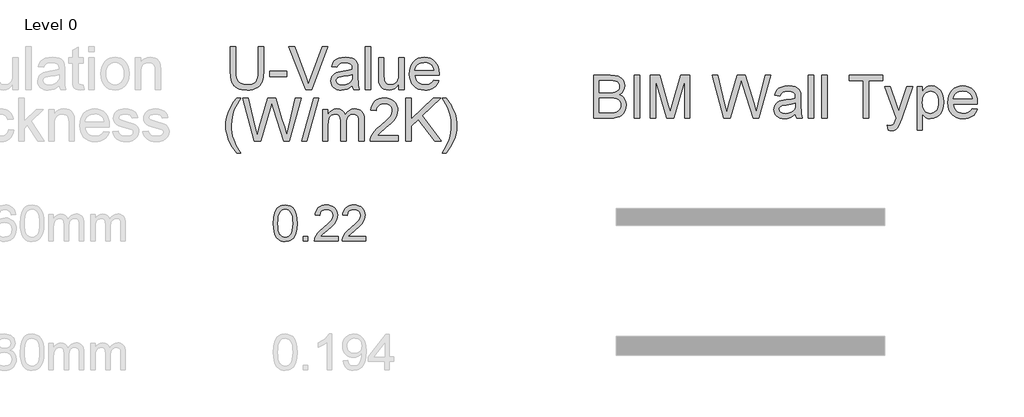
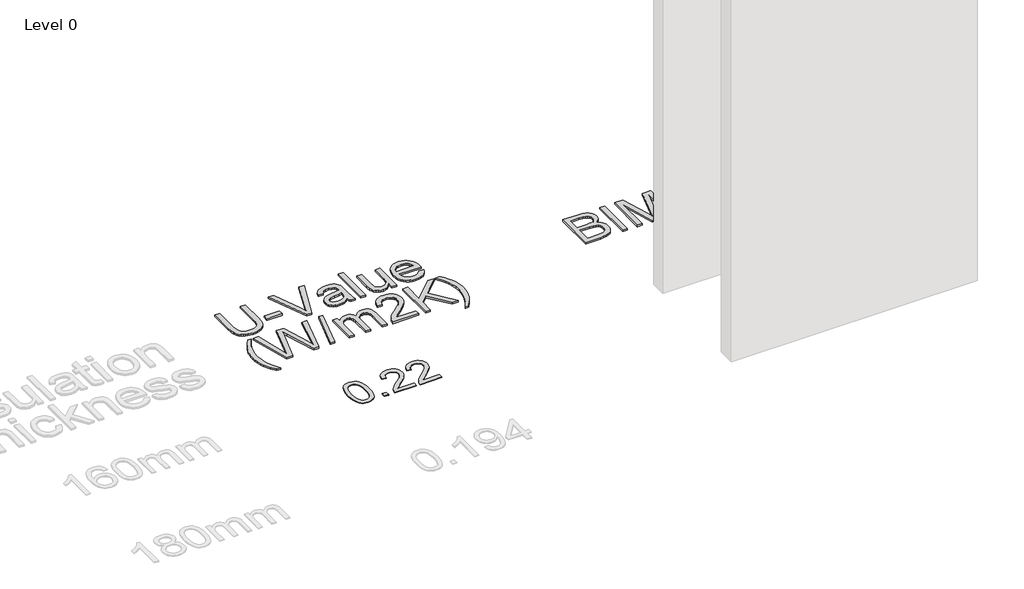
# One storey, part 11 of 11: 3 proxies.
"""IFC4 building model written with IfcOpenShell, lengths in millimetres."""

from ifc_helpers import new_model, si_unit, origin, origin_with_axes, place, context, project, spatial, polyline, outline, extrude, element, save

model = new_model("IFC4")

# Units and contexts
model_context = context("Model", 3, world=origin())
ifc_project = project(units=[si_unit("LENGTHUNIT", "METRE", prefix="MILLI")], contexts=[model_context])

# Site, building, storey
site = spatial("IfcSite", under=ifc_project)
building = spatial("IfcBuilding", under=site)
storey = spatial("IfcBuildingStorey", under=building, Name="Level 0", Elevation=0.0)

# Proxies
placement = place(None, origin())
element("IfcBuildingElementProxy", 1, Name="600mm Arial-400", ObjectType="600mm Arial-400", at=placement, inside=storey, context=model_context, shape_type="SweptSolid", body=[
    extrude(outline(polyline([(37665.4277656, 4459.6099493), (37669.1188483, 4523.9279848), (37680.1920964, 4575.2229977), (37698.5371452, 4614.2798028), (37710.3952082, 4629.5131831), (37724.0436302, 4641.8832152), (37739.5283965, 4651.4542785), (37756.8954924, 4658.2907522), (37797.2766727, 4663.7599312), (37828.2278112, 4660.5225696), (37855.9415882, 4650.810485), (37879.1181539, 4635.0038219), (37896.4576586, 4613.4827252), (37909.5542576, 4586.4311358), (37920.0021063, 4554.0329948), (37926.8447114, 4512.891525), (37929.1255798, 4459.6099493), (37925.4712853, 4395.6597958), (37914.5084018, 4344.4874103), (37896.2737176, 4305.393817), (37884.4432458, 4290.1144514), (37870.8040208, 4277.68004), (37855.3008604, 4268.0445974), (37837.8785822, 4261.1621384), (37797.2766727, 4255.6561712), (37769.6119467, 4258.0474042), (37745.0864803, 4265.2211031), (37723.7002737, 4277.1772679), (37705.4533267, 4293.9158987), (37687.9421437, 4324.1741928), (37675.4341559, 4361.8759659), (37667.9293632, 4407.0212181), (37665.4277656, 4459.6099493)]), holes=[polyline([(37715.6559207, 4459.7080512), (37717.1274487, 4416.0435241), (37721.5420326, 4380.6992614), (37728.8996725, 4353.6752631), (37739.2003684, 4334.9715294), (37751.6593053, 4322.245878), (37765.4916683, 4313.1561271), (37780.6974575, 4307.7022765), (37797.2766727, 4305.8843263), (37813.8558879, 4307.7084078), (37829.0616771, 4313.1806525), (37842.8940401, 4322.3010603), (37855.352977, 4335.0696312), (37865.6536729, 4353.8040218), (37873.0113128, 4380.8218887), (37877.4258967, 4416.1232318), (37878.8974247, 4459.7080512), (37877.4749476, 4502.2168157), (37873.2075165, 4536.9387447), (37866.0951313, 4563.8738381), (37856.1377919, 4583.022096), (37843.8873215, 4596.370081), (37829.8955429, 4605.9043561), (37814.1624563, 4611.6249211), (37796.6880615, 4613.5317761), (37780.1946854, 4611.8517817), (37765.2464137, 4606.8117983), (37751.8432463, 4598.4118261), (37739.9851833, 4586.651865), (37729.3411309, 4565.8052186), (37721.7382364, 4537.6990342), (37717.1764996, 4502.3333117), (37715.6559207, 4459.7080512)])]), origin_with_axes(), (0.0, 0.0, 1.0), 8.0),
    extrude(outline(polyline([(37998.189293, 4261.9346906), (37998.189293, 4312.1628457), (38048.4174481, 4312.1628457), (38048.4174481, 4261.9346906), (37998.189293, 4261.9346906)])), origin_with_axes(), (0.0, 0.0, 1.0), 8.0),
    extrude(outline(polyline([(38387.4574948, 4312.1628457), (38387.4574948, 4261.9346906), (38123.7596807, 4261.9346906), (38124.8633267, 4279.6175518), (38129.1552833, 4296.5646491), (38141.5529065, 4323.6285012), (38159.7140143, 4349.8830129), (38185.9685261, 4377.3637979), (38222.646361, 4408.10647), (38276.8353789, 4456.2499604), (38309.3193591, 4491.7873612), (38325.542955, 4520.6293096), (38330.9508204, 4548.6864431), (38325.8372606, 4573.8373088), (38310.4965814, 4594.7452689), (38286.9153455, 4608.8351493), (38257.0801157, 4613.5317761), (38225.7488325, 4608.9455139), (38201.4073071, 4595.1867273), (38185.6987459, 4573.3345368), (38180.2663551, 4544.4680629), (38130.0382001, 4550.7465823), (38134.3577478, 4576.6761316), (38142.2150941, 4599.3315311), (38153.6102389, 4618.7127809), (38168.5431822, 4634.8198809), (38186.6705675, 4647.4811529), (38207.6490383, 4656.5249186), (38231.4785946, 4661.951178), (38258.1592363, 4663.7599312), (38285.0790013, 4661.748843), (38309.0373162, 4655.7155782), (38330.0341811, 4645.660137), (38348.0695959, 4631.5825193), (38362.5549494, 4614.5250575), (38372.9016306, 4595.5300838), (38379.1096392, 4574.5975983), (38381.1789754, 4551.7276009), (38378.947158, 4527.7049066), (38372.2517057, 4504.0991453), (38360.3691173, 4480.0887137), (38342.5758914, 4454.8520089), (38314.2121896, 4424.7224735), (38270.6181732, 4386.0335503), (38212.8361745, 4337.7183816), (38190.1746435, 4312.1628457), (38387.4574948, 4312.1628457)])), origin_with_axes(), (0.0, 0.0, 1.0), 8.0),
    extrude(outline(polyline([(38695.1049447, 4312.1628457), (38695.1049447, 4261.9346906), (38431.4071305, 4261.9346906), (38432.5107765, 4279.6175518), (38436.8027331, 4296.5646491), (38449.2003564, 4323.6285012), (38467.3614642, 4349.8830129), (38493.6159759, 4377.3637979), (38530.2938108, 4408.10647), (38584.4828287, 4456.2499604), (38616.9668089, 4491.7873612), (38633.1904049, 4520.6293096), (38638.5982702, 4548.6864431), (38633.4847105, 4573.8373088), (38618.1440313, 4594.7452689), (38594.5627954, 4608.8351493), (38564.7275656, 4613.5317761), (38533.3962823, 4608.9455139), (38509.054757, 4595.1867273), (38493.3461958, 4573.3345368), (38487.913805, 4544.4680629), (38437.6856499, 4550.7465823), (38442.0051977, 4576.6761316), (38449.8625439, 4599.3315311), (38461.2576887, 4618.7127809), (38476.1906321, 4634.8198809), (38494.3180174, 4647.4811529), (38515.2964882, 4656.5249186), (38539.1260444, 4661.951178), (38565.8066861, 4663.7599312), (38592.7264511, 4661.748843), (38616.684766, 4655.7155782), (38637.6816309, 4645.660137), (38655.7170457, 4631.5825193), (38670.2023993, 4614.5250575), (38680.5490804, 4595.5300838), (38686.7570891, 4574.5975983), (38688.8264253, 4551.7276009), (38686.5946078, 4527.7049066), (38679.8991555, 4504.0991453), (38668.0165671, 4480.0887137), (38650.2233413, 4454.8520089), (38621.8596394, 4424.7224735), (38578.265623, 4386.0335503), (38520.4836243, 4337.7183816), (38497.8220934, 4312.1628457), (38695.1049447, 4312.1628457)])), origin_with_axes(), (0.0, 0.0, 1.0), 8.0),
])
element("IfcBuildingElementProxy", 2, Name="Arial-500 Blanco", ObjectType="Arial-500 Blanco", at=placement, inside=storey, context=model_context, shape_type="SweptSolid", body=[
    extrude(outline(polyline([(41242.0487844, 5635.3857513), (41242.0487844, 6115.0189703), (41425.0728863, 6115.0189703), (41475.4103692, 6111.4913944), (41514.71137, 6100.9086669), (41544.8348186, 6083.0073172), (41567.6396451, 6057.523875), (41581.9987817, 6027.5467988), (41586.7851606, 5996.1645471), (41582.7599184, 5967.2852643), (41570.6841919, 5940.1331762), (41550.4701576, 5916.3769288), (41522.0299921, 5897.6851679), (41556.0030359, 5879.9448279), (41569.6632441, 5867.605631), (41581.1059098, 5852.9537496), (41596.6067514, 5818.4976766), (41601.7736987, 5778.362353), (41598.2461228, 5744.9162499), (41587.6633952, 5713.8999294), (41571.8698087, 5687.5236153), (41552.709656, 5667.9975315), (41529.2461535, 5653.8579535), (41500.5425175, 5643.641157), (41465.6619645, 5637.4496027), (41423.6677108, 5635.3857513), (41242.0487844, 5635.3857513)]), holes=[polyline([(41302.0029368, 5920.1679751), (41411.4895236, 5920.1679751), (41449.7805546, 5921.4560526), (41475.4250064, 5925.3202851), (41497.8053529, 5934.2050923), (41513.8916843, 5947.5103473), (41523.5961772, 5965.0311287), (41526.8310082, 5986.5625149), (41523.8157359, 6007.4644997), (41514.7699189, 6025.6732315), (41500.1034002, 6039.8859957), (41480.2260226, 6048.8000774), (41449.7220056, 6053.4986328), (41403.1755689, 6055.0648179), (41302.0029368, 6055.0648179), (41302.0029368, 5920.1679751)]), polyline([(41302.0029368, 5695.3399037), (41424.9557883, 5695.3399037), (41469.4530108, 5697.6818628), (41490.1061624, 5702.8780845), (41507.100003, 5710.7382846), (41520.9175615, 5721.9943254), (41532.0418671, 5737.3780691), (41539.3751265, 5756.2015652), (41541.8195463, 5777.7768632), (41538.9506464, 5802.8358253), (41530.3439468, 5824.3818488), (41515.311497, 5841.2293169), (41493.1653465, 5852.1926129), (41461.7977321, 5858.2085202), (41419.1008906, 5860.2138227), (41302.0029368, 5860.2138227), (41302.0029368, 5695.3399037)])]), origin_with_axes(), (0.0, 0.0, 1.0), 20.0),
    extrude(outline(polyline([(41691.7049272, 5635.3857513), (41691.7049272, 6115.0189703), (41751.6590796, 6115.0189703), (41751.6590796, 5635.3857513), (41691.7049272, 5635.3857513)])), origin_with_axes(), (0.0, 0.0, 1.0), 20.0),
    extrude(outline(polyline([(41871.5673844, 5635.3857513), (41871.5673844, 6115.0189703), (41974.3793878, 6115.0189703), (42072.7416691, 5776.9571775), (42092.6483212, 5706.3471113), (42114.0772468, 5782.8120752), (42210.5659608, 6115.0189703), (42313.7292581, 6115.0189703), (42313.7292581, 5635.3857513), (42253.7751057, 5635.3857513), (42253.7751057, 6055.0648179), (42133.2813112, 5635.3857513), (42052.1324292, 5635.3857513), (41931.5215367, 6055.0648179), (41931.5215367, 5635.3857513), (41871.5673844, 5635.3857513)])), origin_with_axes(), (0.0, 0.0, 1.0), 20.0),
    extrude(outline(polyline([(42691.8385511, 5635.3857513), (42561.0401367, 6115.0189703), (42622.8678563, 6115.0189703), (42698.7473304, 5799.7912785), (42722.1669212, 5702.4828789), (42747.2258833, 5788.5498749), (42842.3094218, 6115.0189703), (42931.4209647, 6115.0189703), (43000.5087575, 5878.3640056), (43030.1052653, 5790.5405402), (43051.9147592, 5702.4828789), (43074.6317623, 5796.9809276), (43151.0967262, 6115.0189703), (43213.0415438, 6115.0189703), (43082.3602272, 5635.3857513), (43018.1905485, 5635.3857513), (42903.0832599, 6005.4152855), (42887.0408402, 6057.0554831), (42869.0077553, 5994.8764696), (42764.2050866, 5635.3857513), (42691.8385511, 5635.3857513)])), origin_with_axes(), (0.0, 0.0, 1.0), 20.0),
    extrude(outline(polyline([(43490.3294985, 5680.3513656), (43461.6844115, 5655.7900698), (43432.1903644, 5639.7183756), (43401.1740439, 5630.8482056), (43367.9621367, 5627.8914823), (43341.2674625, 5629.6699074), (43317.8588497, 5635.005183), (43297.7362982, 5643.8973088), (43280.899808, 5656.346285), (43267.6055309, 5671.5617004), (43258.1096187, 5688.7531438), (43252.4120714, 5707.9206151), (43250.512889, 5729.0641144), (43253.3817889, 5753.9181551), (43261.9884885, 5776.4887857), (43275.264469, 5795.8099481), (43292.1412116, 5810.9155841), (43311.9746775, 5822.3326346), (43334.120828, 5830.5880404), (43385.9952216, 5839.6045828), (43447.2960005, 5849.0895171), (43489.9782046, 5860.2138227), (43490.3294985, 5873.5629894), (43486.2017956, 5900.3198719), (43473.818687, 5917.826016), (43446.1250209, 5930.8238889), (43407.5412451, 5935.1565132), (43371.8263692, 5932.2729761), (43346.884505, 5923.6223647), (43329.8760272, 5907.6238568), (43317.9613104, 5882.6966299), (43258.007158, 5890.1908989), (43268.4142387, 5922.978326), (43283.9443548, 5948.7398758), (43306.0465936, 5968.4416066), (43336.1700422, 5983.0495763), (43373.011986, 5992.0953932), (43415.2697101, 5995.1106656), (43455.8002393, 5992.4466871), (43487.9289904, 5984.4547518), (43512.1536296, 5972.4375742), (43528.9718233, 5957.6978693), (43540.1254034, 5939.4745002), (43547.356202, 5917.0063303), (43550.2836509, 5864.546447), (43550.2836509, 5789.9550504), (43553.3281977, 5685.7964204), (43565.272189, 5635.3857513), (43505.3180366, 5635.3857513), (43495.7160044, 5656.2291871), (43490.3294985, 5680.3513656)]), holes=[polyline([(43490.3294985, 5800.2596703), (43450.0478024, 5790.2770698), (43393.6065886, 5781.8752916), (43342.0249399, 5772.1561614), (43328.602587, 5765.5108525), (43318.6638981, 5756.3479376), (43312.5162556, 5745.3700045), (43310.4670414, 5733.2796407), (43314.9314009, 5715.4514773), (43328.3244793, 5700.8435075), (43350.3535319, 5691.0951028), (43380.7258137, 5687.8456346), (43412.927751, 5691.4317595), (43441.3825538, 5702.190134), (43464.4508507, 5718.0422695), (43480.4932704, 5736.9096773), (43487.6069711, 5756.3479376), (43489.9782046, 5783.280467), (43490.3294985, 5800.2596703)])]), origin_with_axes(), (0.0, 0.0, 1.0), 20.0),
    extrude(outline(polyline([(43632.7206104, 5635.3857513), (43632.7206104, 6115.0189703), (43692.6747628, 6115.0189703), (43692.6747628, 5635.3857513), (43632.7206104, 5635.3857513)])), origin_with_axes(), (0.0, 0.0, 1.0), 20.0),
    extrude(outline(polyline([(43782.6059913, 5635.3857513), (43782.6059913, 6115.0189703), (43842.5601437, 6115.0189703), (43842.5601437, 5635.3857513), (43782.6059913, 5635.3857513)])), origin_with_axes(), (0.0, 0.0, 1.0), 20.0),
    extrude(outline(polyline([(44247.2506722, 5635.3857513), (44247.2506722, 6055.0648179), (44089.8710222, 6055.0648179), (44089.8710222, 6115.0189703), (44464.5844746, 6115.0189703), (44464.5844746, 6055.0648179), (44307.2048246, 6055.0648179), (44307.2048246, 5635.3857513), (44247.2506722, 5635.3857513)])), origin_with_axes(), (0.0, 0.0, 1.0), 20.0),
    extrude(outline(polyline([(44524.538627, 5500.4889085), (44517.0443579, 5558.2181997), (44547.4898259, 5552.9487918), (44563.5029711, 5554.6028004), (44575.9446287, 5559.5648262), (44585.6344844, 5567.4835753), (44593.3922238, 5578.0077539), (44609.7859374, 5622.1536825), (44614.4698555, 5636.6738288), (44487.0672817, 5987.6163965), (44550.1830789, 5987.6163965), (44617.8656962, 5791.9457156), (44641.4023849, 5713.7242824), (44664.9390736, 5782.9291732), (44734.3781603, 5987.6163965), (44797.0255656, 5987.6163965), (44674.4240079, 5626.9546986), (44642.5733645, 5548.7332654), (44626.2674744, 5523.7621268), (44607.7952722, 5506.4609041), (44586.3663466, 5496.3612056), (44561.1902865, 5492.9946394), (44543.7719659, 5494.8682067), (44524.538627, 5500.4889085)])), origin_with_axes(), (0.0, 0.0, 1.0), 20.0),
    extrude(outline(polyline([(44846.792196, 5500.4889085), (44846.792196, 5987.6163965), (44906.7463484, 5987.6163965), (44906.7463484, 5928.8332237), (44926.3017067, 5957.8296045), (44948.199024, 5978.5413051), (44973.726378, 5990.9683254), (45004.171846, 5995.1106656), (45044.7170125, 5989.3143168), (45080.168418, 5971.9252707), (45109.0330637, 5943.9974087), (45129.8179505, 5906.5846124), (45142.376706, 5862.4094093), (45146.5629579, 5814.1943268), (45141.835128, 5762.9200603), (45127.6516383, 5717.0615741), (45104.4662435, 5678.9461901), (45089.6679895, 5663.6649072), (45072.732698, 5650.9012302), (45035.7736563, 5633.6439192), (44996.9117728, 5627.8914823), (44969.3498419, 5631.7410775), (44944.7446344, 5643.2898632), (44923.6816399, 5660.7228211), (44906.7463484, 5682.2249328), (44906.7463484, 5500.4889085), (44846.792196, 5500.4889085)]), holes=[polyline([(44906.7463484, 5808.690723), (44908.3674232, 5779.7968029), (44913.2306476, 5754.9427622), (44921.3360216, 5734.1286009), (44932.6835451, 5717.354319), (44946.3437533, 5704.4442696), (44961.3871811, 5695.2228057), (44977.8138284, 5689.6899274), (44995.6236953, 5687.8456346), (45013.689714, 5689.755795), (45030.4164249, 5695.4862761), (45045.8038279, 5705.037078), (45059.851923, 5718.4082006), (45071.5580591, 5735.7899281), (45079.9195849, 5757.3725447), (45084.9365003, 5783.1560504), (45086.6088055, 5813.1404453), (45084.9767528, 5841.7855322), (45080.0805946, 5866.5956612), (45071.9203309, 5887.5708322), (45060.4959618, 5904.7110452), (45046.8028198, 5918.0309374), (45031.8362376, 5927.5451462), (45015.5962151, 5933.2536714), (44998.0827524, 5935.1565132), (44980.6241793, 5933.1329142), (44964.197532, 5927.0621171), (44948.8028104, 5916.944122), (44934.4400145, 5902.7789289), (44922.3240355, 5884.756822), (44913.6697649, 5863.0680853), (44908.4772025, 5837.712719), (44906.7463484, 5808.690723)])]), origin_with_axes(), (0.0, 0.0, 1.0), 20.0),
    extrude(outline(polyline([(45460.6196701, 5740.305518), (45519.402843, 5732.8112489), (45510.3899598, 5709.2672416), (45498.2227506, 5688.5189479), (45482.9012152, 5670.5663678), (45464.4253536, 5655.4095014), (45442.9854501, 5643.370368), (45418.7717889, 5634.770987), (45391.7843698, 5629.6113585), (45362.023193, 5627.8914823), (45324.8226368, 5630.8591835), (45291.6765972, 5639.7622873), (45262.5850743, 5654.6007937), (45237.548068, 5675.3747025), (45217.4145386, 5701.5058428), (45203.0334461, 5732.4160433), (45194.4047906, 5768.1053041), (45191.5285722, 5808.5736251), (45194.4340651, 5850.4141877), (45203.1505441, 5887.2927245), (45217.678009, 5919.2092356), (45238.0164598, 5946.1637208), (45262.9875985, 5967.5780092), (45291.4131268, 5982.8739294), (45323.2930447, 5992.0514815), (45358.6273523, 5995.1106656), (45392.8236141, 5992.0588001), (45423.7484519, 5982.9032039), (45451.4018656, 5967.6438768), (45475.7838551, 5946.2808188), (45495.686848, 5919.3848825), (45509.9032714, 5887.5269204), (45518.4331255, 5850.7069326), (45521.2764102, 5808.9249189), (45520.9251164, 5792.7654013), (45251.4827245, 5792.7654013), (45254.9554107, 5768.8408256), (45261.8605307, 5747.8876105), (45272.1980844, 5729.9057559), (45285.9680719, 5714.895262), (45302.4093565, 5703.06105), (45320.7608015, 5694.6080415), (45341.0224068, 5689.5362363), (45363.1941725, 5687.8456346), (45395.1033649, 5690.9780049), (45421.9773453, 5700.3751157), (45443.8161137, 5716.6224568), (45460.6196701, 5740.305518)]), holes=[polyline([(45251.4827245, 5852.7195537), (45461.3222578, 5852.7195537), (45453.2132245, 5884.3945502), (45437.3171773, 5907.0530043), (45420.9673755, 5919.3482894), (45402.3634381, 5928.1306359), (45381.505365, 5933.4000439), (45358.3931564, 5935.1565132), (45317.9797251, 5929.5504486), (45300.3967354, 5922.542868), (45284.5628965, 5912.732255), (45271.275938, 5900.5723644), (45261.3335899, 5886.5169506), (45254.7358521, 5870.5660137), (45251.4827245, 5852.7195537)])]), origin_with_axes(), (0.0, 0.0, 1.0), 20.0),
])
element("IfcBuildingElementProxy", 3, Name="Arial-500 Blanco", ObjectType="Arial-500 Blanco", at=placement, inside=storey, context=model_context, shape_type="SweptSolid", body=[
    extrude(outline(polyline([(37497.8280608, 6435.0189703), (37557.7822132, 6435.0189703), (37557.7822132, 6158.3165053), (37553.7130593, 6093.5174251), (37541.5055976, 6043.6190595), (37531.7352371, 6023.3830694), (37518.7007711, 6005.1231072), (37502.4021996, 5988.839173), (37482.8395227, 5974.5312668), (37459.9907845, 5962.876361), (37433.834029, 5954.5514284), (37404.3692564, 5949.5564688), (37371.5964666, 5947.8914823), (37310.7201678, 5953.687831), (37284.8598166, 5960.9332669), (37262.0513307, 5971.0768771), (37242.291051, 5983.96863), (37225.5753181, 5999.4584937), (37211.904132, 6017.5464682), (37201.2774927, 6038.2325537), (37193.3111725, 6062.2266563), (37187.6209438, 6090.2386824), (37183.0687608, 6158.3165053), (37183.0687608, 6435.0189703), (37243.0229132, 6435.0189703), (37243.0229132, 6160.4242685), (37245.9796366, 6106.5445725), (37254.8498066, 6069.0293155), (37270.9215007, 6043.048207), (37295.4827966, 6023.7709564), (37327.5090869, 6011.8269651), (37365.9757648, 6007.8456346), (37399.0193436, 6009.814344), (37426.9545242, 6015.720472), (37449.7813066, 6025.5640188), (37467.4996908, 6039.3449842), (37480.7683527, 6058.7246956), (37490.2459683, 6085.3644801), (37495.9325377, 6119.2643377), (37497.8280608, 6160.4242685), (37497.8280608, 6435.0189703)])), origin_with_axes(), (0.0, 0.0, 1.0), 20.0),
    extrude(outline(polyline([(37625.2306346, 6097.7768632), (37625.2306346, 6157.7310156), (37812.5873608, 6157.7310156), (37812.5873608, 6097.7768632), (37625.2306346, 6097.7768632)])), origin_with_axes(), (0.0, 0.0, 1.0), 20.0),
    extrude(outline(polyline([(38029.1014775, 5955.3857513), (37838.3489106, 6435.0189703), (37902.5185894, 6435.0189703), (38030.272457, 6089.4629085), (38056.1511048, 6011.5927692), (38081.6784588, 6089.4629085), (38209.7836203, 6435.0189703), (38273.836201, 6435.0189703), (38090.9291971, 5955.3857513), (38029.1014775, 5955.3857513)])), origin_with_axes(), (0.0, 0.0, 1.0), 20.0),
    extrude(outline(polyline([(38547.0257274, 6000.3513656), (38518.3806404, 5975.7900698), (38488.8865933, 5959.7183756), (38457.8702728, 5950.8482056), (38424.6583656, 5947.8914823), (38397.9636914, 5949.6699074), (38374.5550786, 5955.005183), (38354.4325271, 5963.8973088), (38337.5960369, 5976.346285), (38324.3017598, 5991.5617004), (38314.8058476, 6008.7531438), (38309.1083003, 6027.9206151), (38307.2091179, 6049.0641144), (38310.0780178, 6073.9181551), (38318.6847174, 6096.4887857), (38331.9606979, 6115.8099481), (38348.8374405, 6130.9155841), (38368.6709064, 6142.3326346), (38390.8170569, 6150.5880404), (38442.6914505, 6159.6045828), (38503.9922294, 6169.0895171), (38546.6744335, 6180.2138227), (38547.0257274, 6193.5629894), (38542.8980245, 6220.3198719), (38530.5149159, 6237.826016), (38502.8212498, 6250.8238889), (38464.237474, 6255.1565132), (38428.5225981, 6252.2729761), (38403.5807339, 6243.6223647), (38386.5722561, 6227.6238568), (38374.6575393, 6202.6966299), (38314.7033869, 6210.1908989), (38325.1104676, 6242.978326), (38340.6405837, 6268.7398758), (38362.7428225, 6288.4416066), (38392.8662711, 6303.0495763), (38429.7082149, 6312.0953932), (38471.965939, 6315.1106656), (38512.4964683, 6312.4466871), (38544.6252193, 6304.4547518), (38568.8498585, 6292.4375742), (38585.6680522, 6277.6978693), (38596.8216323, 6259.4745002), (38604.0524309, 6237.0063303), (38606.9798798, 6184.546447), (38606.9798798, 6109.9550504), (38610.0244266, 6005.7964204), (38621.9684179, 5955.3857513), (38562.0142655, 5955.3857513), (38552.4122333, 5976.2291871), (38547.0257274, 6000.3513656)]), holes=[polyline([(38547.0257274, 6120.2596703), (38506.7440313, 6110.2770698), (38450.3028175, 6101.8752916), (38398.7211688, 6092.1561614), (38385.2988159, 6085.5108525), (38375.360127, 6076.3479376), (38369.2124845, 6065.3700045), (38367.1632703, 6053.2796407), (38371.6276298, 6035.4514773), (38385.0207082, 6020.8435075), (38407.0497608, 6011.0951028), (38437.4220426, 6007.8456346), (38469.6239799, 6011.4317595), (38498.0787827, 6022.190134), (38521.1470796, 6038.0422695), (38537.1894993, 6056.9096773), (38544.3032, 6076.3479376), (38546.6744335, 6103.280467), (38547.0257274, 6120.2596703)])]), origin_with_axes(), (0.0, 0.0, 1.0), 20.0),
    extrude(outline(polyline([(38689.4168393, 5955.3857513), (38689.4168393, 6435.0189703), (38749.3709917, 6435.0189703), (38749.3709917, 5955.3857513), (38689.4168393, 5955.3857513)])), origin_with_axes(), (0.0, 0.0, 1.0), 20.0),
    extrude(outline(polyline([(39064.1302916, 5955.3857513), (39064.1302916, 6015.9253934), (39042.4378957, 5986.1605573), (39017.1740121, 5964.8999601), (38988.338641, 5952.1436017), (38955.9317823, 5947.8914823), (38926.73048, 5950.8774801), (38899.5491175, 5959.8354735), (38876.744291, 5973.3017382), (38860.6725968, 5989.8125497), (38849.8556733, 6009.8655743), (38842.8151588, 6033.9584783), (38839.3022202, 6089.6971044), (38839.3022202, 6307.6163965), (38899.2563726, 6307.6163965), (38899.2563726, 6117.9177113), (38902.8864092, 6056.7925793), (38911.624844, 6036.4028981), (38926.5987448, 6020.9020565), (38946.8127791, 6011.1097401), (38971.2716142, 6007.8456346), (38997.1356248, 6011.1829263), (39021.3309895, 6021.1948014), (39041.2815534, 6036.9591134), (39054.4111615, 6057.553716), (39061.7005091, 6085.7596857), (39064.1302916, 6124.3580987), (39064.1302916, 6307.6163965), (39124.084444, 6307.6163965), (39124.084444, 5955.3857513), (39064.1302916, 5955.3857513)])), origin_with_axes(), (0.0, 0.0, 1.0), 20.0),
    extrude(outline(polyline([(39453.1296944, 6060.305518), (39511.9128672, 6052.8112489), (39502.8999841, 6029.2672416), (39490.7327748, 6008.5189479), (39475.4112394, 5990.5663678), (39456.9353779, 5975.4095014), (39435.4954744, 5963.370368), (39411.2818131, 5954.770987), (39384.294394, 5949.6113585), (39354.5332172, 5947.8914823), (39317.332661, 5950.8591835), (39284.1866214, 5959.7622873), (39255.0950985, 5974.6007937), (39230.0580923, 5995.3747025), (39209.9245628, 6021.5058428), (39195.5434704, 6052.4160433), (39186.9148149, 6088.1053041), (39184.0385964, 6128.5736251), (39186.9440894, 6170.4141877), (39195.6605683, 6207.2927245), (39210.1880332, 6239.2092356), (39230.5264841, 6266.1637208), (39255.4976227, 6287.5780092), (39283.923151, 6302.8739294), (39315.803069, 6312.0514815), (39351.1373765, 6315.1106656), (39385.3336384, 6312.0588001), (39416.2584761, 6302.9032039), (39443.9118898, 6287.6438768), (39468.2938794, 6266.2808188), (39488.1968722, 6239.3848825), (39502.4132957, 6207.5269204), (39510.9431498, 6170.7069326), (39513.7864345, 6128.9249189), (39513.4351406, 6112.7654013), (39243.9927488, 6112.7654013), (39247.465435, 6088.8408256), (39254.3705549, 6067.8876105), (39264.7081087, 6049.9057559), (39278.4780962, 6034.895262), (39294.9193808, 6023.06105), (39313.2708257, 6014.6080415), (39333.532431, 6009.5362363), (39355.7041967, 6007.8456346), (39387.6133892, 6010.9780049), (39414.4873696, 6020.3751157), (39436.326138, 6036.6224568), (39453.1296944, 6060.305518)]), holes=[polyline([(39243.9927488, 6172.7195537), (39453.8322821, 6172.7195537), (39445.7232488, 6204.3945502), (39429.8272015, 6227.0530043), (39413.4773997, 6239.3482894), (39394.8734623, 6248.1306359), (39374.0153893, 6253.4000439), (39350.9031806, 6255.1565132), (39310.4897493, 6249.5504486), (39292.9067597, 6242.542868), (39277.0729207, 6232.732255), (39263.7859623, 6220.5723644), (39253.8436141, 6206.5169506), (39247.2458763, 6190.5660137), (39243.9927488, 6172.7195537)])]), origin_with_axes(), (0.0, 0.0, 1.0), 20.0),
    extrude(outline(polyline([(37254.2643168, 5244.0280197), (37207.8057036, 5309.2223055), (37169.1341043, 5384.6626623), (37153.918689, 5425.3102896), (37143.0505351, 5466.689779), (37136.5296428, 5508.8011307), (37134.356012, 5551.6443445), (37135.9807462, 5589.2986553), (37140.8549485, 5626.1479177), (37148.978619, 5662.1921316), (37160.3517578, 5697.4312971), (37177.6383432, 5737.8447284), (37199.0526316, 5778.1703363), (37224.5946227, 5818.4081207), (37254.2643168, 5858.5580816), (37299.2299311, 5858.5580816), (37243.1400112, 5763.591641), (37223.9944957, 5718.5089288), (37209.4158005, 5671.5526493), (37198.0865734, 5611.5692224), (37194.3101644, 5551.2930507), (37195.9495358, 5512.8593066), (37200.8676498, 5474.4328812), (37209.0645066, 5436.0137744), (37220.5401061, 5397.6019862), (37253.3275332, 5320.8003657), (37299.2299311, 5244.0280197), (37254.2643168, 5244.0280197)])), origin_with_axes(), (0.0, 0.0, 1.0), 20.0),
    extrude(outline(polyline([(37452.5111527, 5378.9248626), (37321.7127382, 5858.5580816), (37383.5404579, 5858.5580816), (37459.419932, 5543.3303898), (37482.8395227, 5446.0219901), (37507.8984849, 5532.0889862), (37602.9820234, 5858.5580816), (37692.0935663, 5858.5580816), (37761.181359, 5621.9031168), (37790.7778669, 5534.0796514), (37812.5873608, 5446.0219901), (37835.3043638, 5540.5200389), (37911.7693277, 5858.5580816), (37973.7141453, 5858.5580816), (37843.0328288, 5378.9248626), (37778.8631501, 5378.9248626), (37663.7558614, 5748.9543968), (37647.7134418, 5800.5945944), (37629.6803569, 5738.4155809), (37524.8776882, 5378.9248626), (37452.5111527, 5378.9248626)])), origin_with_axes(), (0.0, 0.0, 1.0), 20.0),
    extrude(outline(polyline([(37981.2084143, 5378.9248626), (38116.1052572, 5858.5580816), (38170.4387078, 5858.5580816), (38035.424767, 5378.9248626), (37981.2084143, 5378.9248626)])), origin_with_axes(), (0.0, 0.0, 1.0), 20.0),
    extrude(outline(polyline([(38213.5307548, 5378.9248626), (38213.5307548, 5731.1555078), (38273.4849072, 5731.1555078), (38273.4849072, 5673.1920206), (38291.5179921, 5699.8171679), (38314.7033869, 5720.6752409), (38342.2506806, 5734.1561429), (38373.3694618, 5738.6497768), (38406.7131042, 5734.0683194), (38433.4407122, 5720.3239471), (38453.4059133, 5698.324169), (38466.4623351, 5668.9764943), (38488.3157408, 5699.4585554), (38513.2429677, 5721.2314562), (38541.2440159, 5734.2951967), (38572.3188854, 5738.6497768), (38596.3203067, 5736.8384179), (38617.3869604, 5731.4043409), (38635.5188467, 5722.3475461), (38650.7159655, 5709.6680333), (38662.7294837, 5693.21943), (38671.3105682, 5672.855364), (38676.4592188, 5648.5758351), (38678.1754357, 5620.3808434), (38678.1754357, 5378.9248626), (38618.2212833, 5378.9248626), (38618.2212833, 5594.6192936), (38616.8307451, 5624.5231836), (38612.6591305, 5644.6786689), (38604.8428421, 5658.4815902), (38592.5182825, 5669.3277881), (38576.666147, 5676.3536654), (38558.267131, 5678.6956245), (38541.2769497, 5677.1953069), (38525.787086, 5672.6943543), (38511.7975398, 5665.1927667), (38499.3083112, 5654.6905439), (38489.0366251, 5640.880304), (38481.6997064, 5623.4546647), (38477.2975552, 5602.4136261), (38475.8301714, 5577.7571882), (38475.8301714, 5378.9248626), (38415.8760191, 5378.9248626), (38415.8760191, 5601.293877), (38412.4069922, 5635.1937346), (38401.9999115, 5659.3744621), (38393.9530865, 5667.8274706), (38383.688719, 5673.8653339), (38356.5073565, 5678.6956245), (38333.4097851, 5675.4754307), (38312.127232, 5665.8148495), (38294.5625389, 5649.9480768), (38282.6185476, 5628.1093084), (38275.7683173, 5597.8102128), (38273.4849072, 5556.5624586), (38273.4849072, 5378.9248626), (38213.5307548, 5378.9248626)])), origin_with_axes(), (0.0, 0.0, 1.0), 20.0),
    extrude(outline(polyline([(39060.3831571, 5438.879015), (39060.3831571, 5378.9248626), (38745.6238571, 5378.9248626), (38746.9412091, 5400.0317688), (38752.0642446, 5420.2604403), (38766.8624985, 5452.5648383), (38788.5402572, 5483.9031782), (38819.8785971, 5516.7052425), (38863.6585946, 5553.4008138), (38928.3405769, 5610.8666347), (38967.1146369, 5653.2853685), (38986.479711, 5687.7121669), (38992.9347357, 5721.2021817), (38991.408803, 5736.8457365), (38986.8310048, 5751.2231696), (38979.2013413, 5764.3344811), (38968.5198123, 5776.179671), (38955.3792263, 5785.990284), (38940.3723917, 5792.9978647), (38904.7599764, 5798.6039292), (38867.3618174, 5793.1295999), (38851.7914489, 5786.2866882), (38838.3068876, 5776.7066118), (38827.3984814, 5764.7113902), (38819.5565778, 5750.6230426), (38814.7811768, 5734.4415691), (38813.0722786, 5716.1669697), (38753.1181262, 5723.6612387), (38758.2740955, 5754.6116917), (38767.6529097, 5781.6540004), (38781.2545689, 5804.7881649), (38799.0790731, 5824.0141852), (38820.7165794, 5839.1271399), (38845.7572449, 5849.9221075), (38874.2010698, 5856.3990881), (38906.0480539, 5858.5580816), (38938.1804643, 5856.1575735), (38966.7779802, 5848.9560494), (38991.8406017, 5836.9535091), (39013.3683286, 5820.1499527), (39030.6585734, 5799.789546), (39043.0087482, 5777.1164547), (39050.4188531, 5752.1306788), (39052.8888881, 5724.8322183), (39050.2249096, 5696.1578568), (39042.2329743, 5667.9811617), (39028.0494846, 5639.3214375), (39006.8108432, 5609.1979888), (38972.9548973, 5573.2342798), (38920.9194941, 5527.0537742), (38851.9487992, 5469.3830319), (38824.8991719, 5438.879015), (39060.3831571, 5438.879015)])), origin_with_axes(), (0.0, 0.0, 1.0), 20.0),
    extrude(outline(polyline([(39142.8201166, 5378.9248626), (39142.8201166, 5858.5580816), (39202.774269, 5858.5580816), (39202.774269, 5623.7766841), (39448.6799721, 5858.5580816), (39532.5221071, 5858.5580816), (39325.9613165, 5661.3651273), (39540.0163761, 5378.9248626), (39466.713057, 5378.9248626), (39283.4547592, 5620.8492352), (39202.774269, 5543.7987816), (39202.774269, 5378.9248626), (39142.8201166, 5378.9248626)])), origin_with_axes(), (0.0, 0.0, 1.0), 20.0),
    extrude(outline(polyline([(39592.4762594, 5244.0280197), (39547.5106452, 5244.0280197), (39593.4130431, 5320.8003657), (39626.2004702, 5397.6019862), (39637.6760696, 5436.0137744), (39645.8729264, 5474.4328812), (39650.7910405, 5512.8593066), (39652.4304118, 5551.2930507), (39648.6540028, 5611.1301051), (39637.3247758, 5670.4987677), (39623.0095509, 5717.5428706), (39603.9518589, 5762.6548574), (39547.5106452, 5858.5580816), (39592.4762594, 5858.5580816), (39622.1459535, 5818.4081207), (39647.6879447, 5778.1703363), (39669.102233, 5737.8447284), (39686.3888184, 5697.4312971), (39697.7619572, 5662.1921316), (39705.8856278, 5626.1479177), (39710.7598301, 5589.2986553), (39712.3845642, 5551.6443445), (39710.1999555, 5508.8011307), (39703.6461294, 5466.689779), (39692.7230859, 5425.3102896), (39677.430825, 5384.6626623), (39638.715314, 5309.2223055), (39592.4762594, 5244.0280197)])), origin_with_axes(), (0.0, 0.0, 1.0), 20.0),
])

save(model, "model.ifc")
